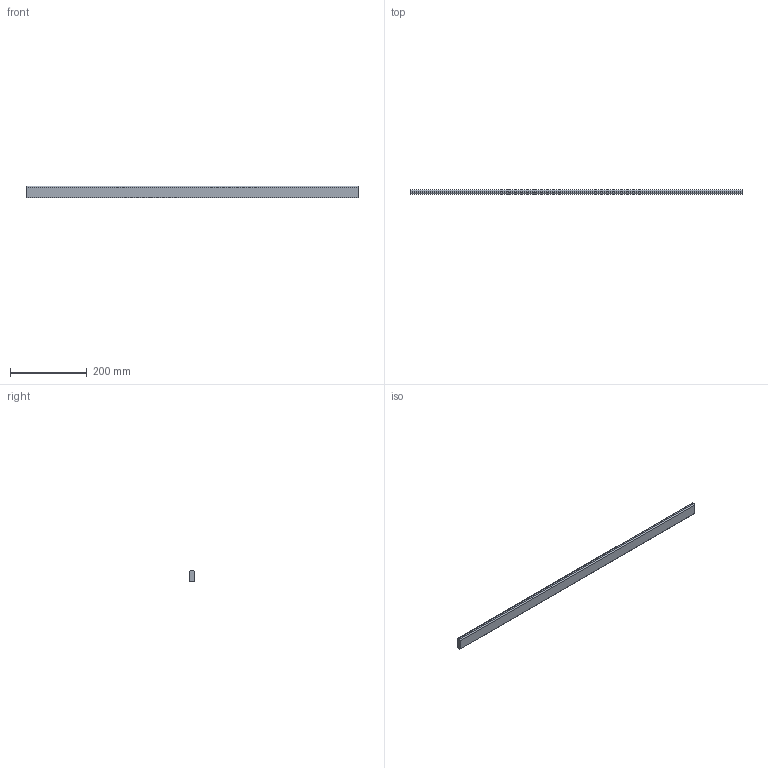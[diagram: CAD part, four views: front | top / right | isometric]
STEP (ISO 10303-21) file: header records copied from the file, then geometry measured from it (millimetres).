
FILE_DESCRIPTION (( 'STEP AP214' ), '1' );
FILE_NAME ('_Querreling_KAB-950_KS-16.step', '2010-08-26T14:59:04', ( 'grass' ), ( '' ), 'SwSTEP 2.0', 'SolidWorks 2009', '' );
FILE_SCHEMA (( 'AUTOMOTIVE_DESIGN' ));
Length unit declared in the file: millimetre
Products named in the file (1): _Querreling_KAB-950_KS-16
Bounding box: 862.5 x 10.5 x 30 mm (x, y, z)
Volume: 267985.6 mm3; surface area: 67522.4 mm2
Topology: 1 solids, 1 shells, 10 faces, 24 edges, 16 vertices
Faces by surface type: plane 6, cylinder 4
Entity records: 330 total; most frequent: DIRECTION 54, CARTESIAN_POINT 51, ORIENTED_EDGE 48, EDGE_CURVE 24, AXIS2_PLACEMENT_3D 19, LINE 16, VECTOR 16, VERTEX_POINT 16
